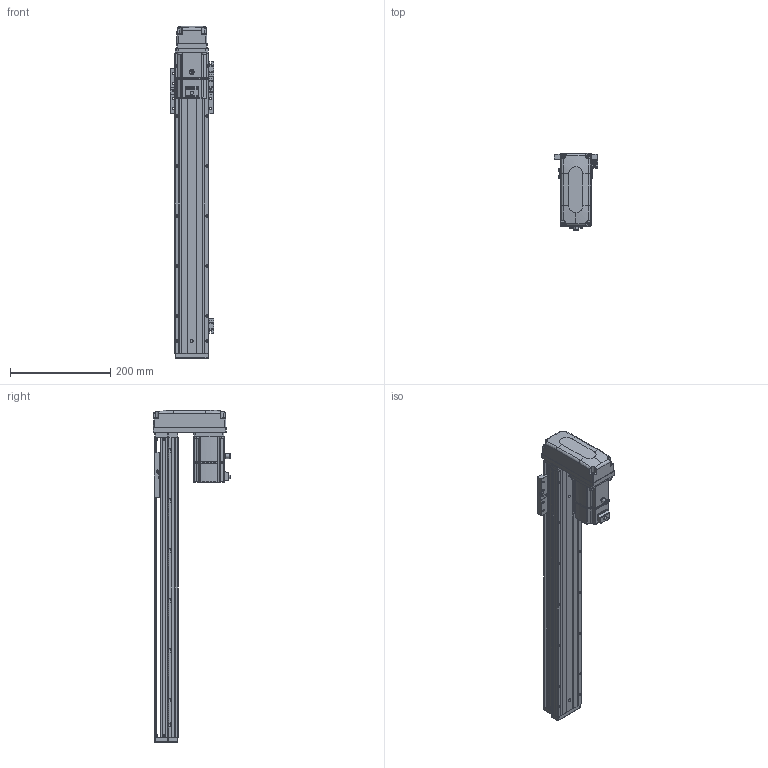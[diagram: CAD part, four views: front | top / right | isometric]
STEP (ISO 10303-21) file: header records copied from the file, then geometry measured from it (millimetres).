
FILE_DESCRIPTION (( 'STEP AP203' ), '1' );
FILE_NAME ('KTHAL60-450-BM-M20-C4L.step', '2022-12-16T02:10:28', ( '微软用户' ), ( '微软中国' ), 'SwSTEP 2.0', 'SolidWorks 2020', '' );
FILE_SCHEMA (( 'CONFIG_CONTROL_DESIGN' ));
Length unit declared in the file: millimetre
Products named in the file (17): KTHLA60-002; CTHA60-021; GTH80-026; KTHA60-004; GBT 70.1-M4×16; KTHAL60-450-BM-M20-C4L; KTHA60-005; GBT77-2000M3-3; GB¨uT 70.2-M3¡Á5_M3¡Á6; GBT 70.1-M3℅6; GBT 70.3-M3℅6; CTHA60-016; EE_SX911P_R; _X2_4E0983F1_X0_200W_1; KTHA60-001_600; CTHA60-017; CTHA60-015-4_CTHA60-015-4
Assembly tree (45 placements, depth 2):
  KTHAL60-450-BM-M20-C4L
    KTHA60-001_600
    KTHLA60-002
    KTHA60-004
    KTHA60-005
    GB¨uT 70.2-M3¡Á5_M3¡Á6  x5
    GBT 70.3-M3℅6  x4
    EE_SX911P_R  x3
    CTHA60-017  x3
    CTHA60-021  x2
    GBT 70.1-M4×16  x8
    GBT77-2000M3-3  x6
    GBT 70.1-M3℅6  x6
    CTHA60-016
    _X2_4E0983F1_X0_200W_1
    CTHA60-015-4_CTHA60-015-4
    GTH80-026
Bounding box: 87.82 x 155.2 x 664 mm (x, y, z)
Volume: 1841169.3 mm3; surface area: 391243 mm2
Topology: 48 solids, 48 shells, 2351 faces, 5604 edges, 3445 vertices
Faces by surface type: plane 1259, cylinder 623, cone 270, bspline 103, torus 82, sphere 14
Entity records: 45893 total; most frequent: CARTESIAN_POINT 10266, DIRECTION 6921, ORIENTED_EDGE 6832, EDGE_CURVE 3416, AXIS2_PLACEMENT_3D 2384, VECTOR 2153, LINE 2153, VERTEX_POINT 2129
